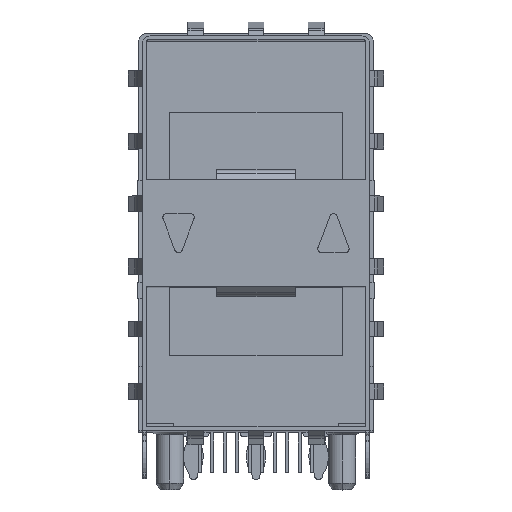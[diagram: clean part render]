
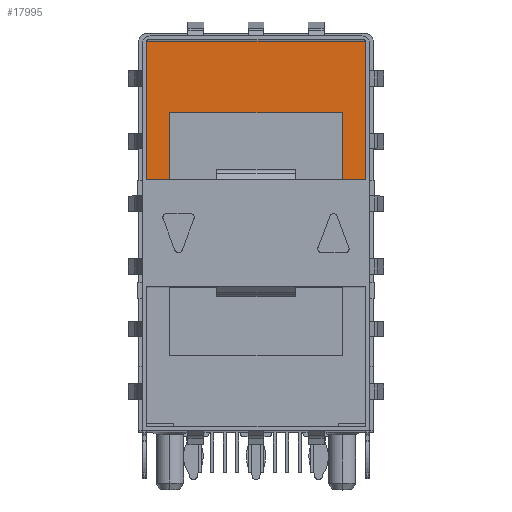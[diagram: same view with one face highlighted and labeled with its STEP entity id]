
A CAD part, top view. The second image highlights one B-rep face of the part: STEP entity #17995.
In plain terms, the highlighted planar face has unit normal (0, 0, 1).
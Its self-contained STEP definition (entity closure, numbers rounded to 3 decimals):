
#14 = ORIENTED_EDGE ( 'NONE', *, *, #9829, .T. ) ;
#87 = DIRECTION ( 'NONE',  ( 0., 0., 1. ) ) ;
#302 = ORIENTED_EDGE ( 'NONE', *, *, #12727, .T. ) ;
#474 = ORIENTED_EDGE ( 'NONE', *, *, #23488, .T. ) ;
#940 = CARTESIAN_POINT ( 'NONE',  ( 5.5, 20.35, -48.55 ) ) ;
#986 = DIRECTION ( 'NONE',  ( 0., -1., 0. ) ) ;
#1640 = VECTOR ( 'NONE', #6073, 1000. ) ;
#1751 = EDGE_CURVE ( 'NONE', #17790, #11719, #17284, .T. ) ;
#1903 = EDGE_CURVE ( 'NONE', #10372, #4312, #22922, .T. ) ;
#2168 = CARTESIAN_POINT ( 'NONE',  ( 6.9, 16., -48.55 ) ) ;
#2868 = CARTESIAN_POINT ( 'NONE',  ( -6.9, 24.95, -48.55 ) ) ;
#3004 = VECTOR ( 'NONE', #6603, 1000. ) ;
#3185 = VECTOR ( 'NONE', #11000, 1000. ) ;
#3325 = AXIS2_PLACEMENT_3D ( 'NONE', #17705, #87, #17371 ) ;
#3765 = LINE ( 'NONE', #6128, #19975 ) ;
#4312 = VERTEX_POINT ( 'NONE', #21889 ) ;
#4453 = PLANE ( 'NONE',  #11227 ) ;
#5174 = LINE ( 'NONE', #17814, #8230 ) ;
#5444 = VECTOR ( 'NONE', #18192, 1000. ) ;
#5571 = DIRECTION ( 'NONE',  ( 1., 0., 0. ) ) ;
#5733 = VECTOR ( 'NONE', #986, 1000. ) ;
#6073 = DIRECTION ( 'NONE',  ( 0., 1., 0. ) ) ;
#6128 = CARTESIAN_POINT ( 'NONE',  ( 7., 16.1, -48.55 ) ) ;
#6407 = CARTESIAN_POINT ( 'NONE',  ( -7.25, 25.2, -48.55 ) ) ;
#6418 = DIRECTION ( 'NONE',  ( -1., 0., 0. ) ) ;
#6419 = ORIENTED_EDGE ( 'NONE', *, *, #1903, .T. ) ;
#6474 = CARTESIAN_POINT ( 'NONE',  ( -7., 24.85, -48.55 ) ) ;
#6603 = DIRECTION ( 'NONE',  ( 0., -1., 0. ) ) ;
#6634 = VERTEX_POINT ( 'NONE', #8632 ) ;
#6808 = VERTEX_POINT ( 'NONE', #18573 ) ;
#7146 = EDGE_LOOP ( 'NONE', ( #302, #19999, #7974, #17398, #20063, #14, #9670, #17519, #15191, #10786, #6419, #474 ) ) ;
#7892 = AXIS2_PLACEMENT_3D ( 'NONE', #18425, #24162, #14429 ) ;
#7974 = ORIENTED_EDGE ( 'NONE', *, *, #12209, .T. ) ;
#8194 = LINE ( 'NONE', #940, #3004 ) ;
#8230 = VECTOR ( 'NONE', #19525, 1000. ) ;
#8612 = CARTESIAN_POINT ( 'NONE',  ( 5.5, 20.35, -48.55 ) ) ;
#8621 = CARTESIAN_POINT ( 'NONE',  ( 5.5, 16., -48.55 ) ) ;
#8632 = CARTESIAN_POINT ( 'NONE',  ( 7., 24.85, -48.55 ) ) ;
#8921 = CIRCLE ( 'NONE', #3325, 0.1 ) ;
#9670 = ORIENTED_EDGE ( 'NONE', *, *, #1751, .T. ) ;
#9829 = EDGE_CURVE ( 'NONE', #11718, #17790, #23133, .T. ) ;
#9850 = CARTESIAN_POINT ( 'NONE',  ( -6.9, 16.1, -48.55 ) ) ;
#9891 = CARTESIAN_POINT ( 'NONE',  ( -5.5, 16., -48.55 ) ) ;
#10164 = CARTESIAN_POINT ( 'NONE',  ( 6.9, 16.1, -48.55 ) ) ;
#10372 = VERTEX_POINT ( 'NONE', #2168 ) ;
#10374 = CARTESIAN_POINT ( 'NONE',  ( -6.9, 16., -48.55 ) ) ;
#10411 = DIRECTION ( 'NONE',  ( -1., 0., 0. ) ) ;
#10786 = ORIENTED_EDGE ( 'NONE', *, *, #23274, .T. ) ;
#11000 = DIRECTION ( 'NONE',  ( 1., 0., 0. ) ) ;
#11227 = AXIS2_PLACEMENT_3D ( 'NONE', #6407, #12492, #10411 ) ;
#11644 = LINE ( 'NONE', #22501, #3185 ) ;
#11718 = VERTEX_POINT ( 'NONE', #10374 ) ;
#11719 = VERTEX_POINT ( 'NONE', #23466 ) ;
#12209 = EDGE_CURVE ( 'NONE', #14977, #14687, #8921, .T. ) ;
#12492 = DIRECTION ( 'NONE',  ( 0., 0., -1. ) ) ;
#12674 = CARTESIAN_POINT ( 'NONE',  ( 6.9, 24.95, -48.55 ) ) ;
#12727 = EDGE_CURVE ( 'NONE', #6634, #23150, #24080, .T. ) ;
#12975 = LINE ( 'NONE', #12674, #5444 ) ;
#14429 = DIRECTION ( 'NONE',  ( -1., 0., 0. ) ) ;
#14687 = VERTEX_POINT ( 'NONE', #17271 ) ;
#14977 = VERTEX_POINT ( 'NONE', #2868 ) ;
#15045 = EDGE_CURVE ( 'NONE', #23150, #14977, #12975, .T. ) ;
#15145 = CARTESIAN_POINT ( 'NONE',  ( -5.5, 16., -48.55 ) ) ;
#15191 = ORIENTED_EDGE ( 'NONE', *, *, #24908, .T. ) ;
#16599 = LINE ( 'NONE', #6474, #5733 ) ;
#17271 = CARTESIAN_POINT ( 'NONE',  ( -7., 24.85, -48.55 ) ) ;
#17284 = LINE ( 'NONE', #19325, #1640 ) ;
#17371 = DIRECTION ( 'NONE',  ( -1., 0., 0. ) ) ;
#17398 = ORIENTED_EDGE ( 'NONE', *, *, #18993, .T. ) ;
#17519 = ORIENTED_EDGE ( 'NONE', *, *, #19337, .T. ) ;
#17705 = CARTESIAN_POINT ( 'NONE',  ( -6.9, 24.85, -48.55 ) ) ;
#17790 = VERTEX_POINT ( 'NONE', #9891 ) ;
#17814 = CARTESIAN_POINT ( 'NONE',  ( -5.5, 20.35, -48.55 ) ) ;
#17936 = DIRECTION ( 'NONE',  ( 0., 0., 1. ) ) ;
#17995 = ADVANCED_FACE ( 'NONE', ( #19347 ), #4453, .F. ) ;
#18081 = VECTOR ( 'NONE', #5571, 1000. ) ;
#18192 = DIRECTION ( 'NONE',  ( -1., 0., 0. ) ) ;
#18425 = CARTESIAN_POINT ( 'NONE',  ( 6.9, 24.85, -48.55 ) ) ;
#18548 = AXIS2_PLACEMENT_3D ( 'NONE', #9850, #23207, #23464 ) ;
#18573 = CARTESIAN_POINT ( 'NONE',  ( -7., 16.1, -48.55 ) ) ;
#18993 = EDGE_CURVE ( 'NONE', #14687, #6808, #16599, .T. ) ;
#19325 = CARTESIAN_POINT ( 'NONE',  ( -5.5, 20.35, -48.55 ) ) ;
#19337 = EDGE_CURVE ( 'NONE', #11719, #24312, #5174, .T. ) ;
#19347 = FACE_OUTER_BOUND ( 'NONE', #7146, .T. ) ;
#19525 = DIRECTION ( 'NONE',  ( 1., 0., 0. ) ) ;
#19975 = VECTOR ( 'NONE', #21249, 1000. ) ;
#19999 = ORIENTED_EDGE ( 'NONE', *, *, #15045, .T. ) ;
#20063 = ORIENTED_EDGE ( 'NONE', *, *, #21052, .T. ) ;
#20763 = AXIS2_PLACEMENT_3D ( 'NONE', #10164, #17936, #6418 ) ;
#21052 = EDGE_CURVE ( 'NONE', #6808, #11718, #23867, .T. ) ;
#21249 = DIRECTION ( 'NONE',  ( 0., 1., 0. ) ) ;
#21889 = CARTESIAN_POINT ( 'NONE',  ( 7., 16.1, -48.55 ) ) ;
#22182 = CARTESIAN_POINT ( 'NONE',  ( 6.9, 24.95, -48.55 ) ) ;
#22501 = CARTESIAN_POINT ( 'NONE',  ( 5.5, 16., -48.55 ) ) ;
#22922 = CIRCLE ( 'NONE', #20763, 0.1 ) ;
#23133 = LINE ( 'NONE', #15145, #18081 ) ;
#23150 = VERTEX_POINT ( 'NONE', #22182 ) ;
#23207 = DIRECTION ( 'NONE',  ( 0., 0., 1. ) ) ;
#23274 = EDGE_CURVE ( 'NONE', #23738, #10372, #11644, .T. ) ;
#23464 = DIRECTION ( 'NONE',  ( -1., 0., 0. ) ) ;
#23466 = CARTESIAN_POINT ( 'NONE',  ( -5.5, 20.35, -48.55 ) ) ;
#23488 = EDGE_CURVE ( 'NONE', #4312, #6634, #3765, .T. ) ;
#23738 = VERTEX_POINT ( 'NONE', #8621 ) ;
#23867 = CIRCLE ( 'NONE', #18548, 0.1 ) ;
#24080 = CIRCLE ( 'NONE', #7892, 0.1 ) ;
#24162 = DIRECTION ( 'NONE',  ( 0., 0., 1. ) ) ;
#24312 = VERTEX_POINT ( 'NONE', #8612 ) ;
#24908 = EDGE_CURVE ( 'NONE', #24312, #23738, #8194, .T. ) ;
